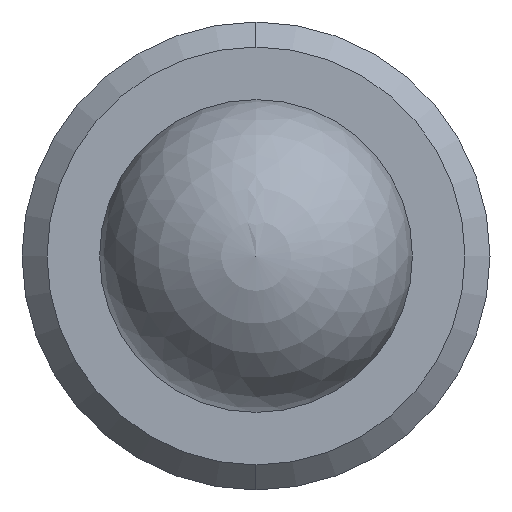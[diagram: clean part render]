
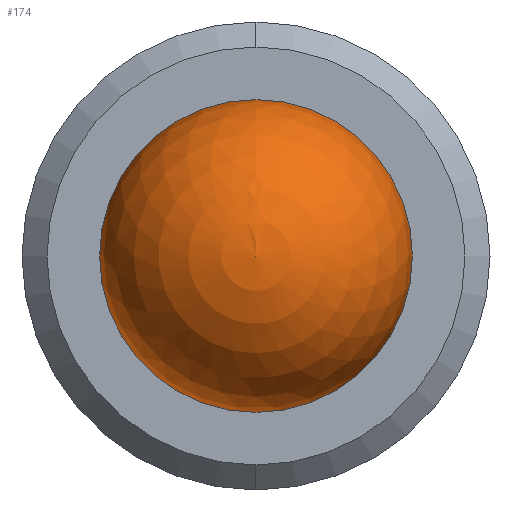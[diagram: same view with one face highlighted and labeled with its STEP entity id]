
A CAD part, left-side view. The second image highlights one B-rep face of the part: STEP entity #174.
In plain terms, the highlighted spherical face has radius 1.587 mm.
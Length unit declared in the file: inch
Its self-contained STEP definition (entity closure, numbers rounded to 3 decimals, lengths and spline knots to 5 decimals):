
#5 = CARTESIAN_POINT ( 'NONE',  ( 0., 0.0625, 0. ) ) ;
#13 = CARTESIAN_POINT ( 'NONE',  ( 0., -0.0625, 0. ) ) ;
#58 = EDGE_CURVE ( 'NONE', #348, #67, #272, .T. ) ;
#64 = ORIENTED_EDGE ( 'NONE', *, *, #65, .F. ) ;
#65 = EDGE_CURVE ( 'NONE', #348, #67, #261, .T. ) ;
#67 = VERTEX_POINT ( 'NONE', #13 ) ;
#100 = AXIS2_PLACEMENT_3D ( 'NONE', #587, #104, #218 ) ;
#104 = DIRECTION ( 'NONE',  ( -1., 0., 0. ) ) ;
#134 = DIRECTION ( 'NONE',  ( -1., 0., 0. ) ) ;
#155 = AXIS2_PLACEMENT_3D ( 'NONE', #276, #268, #589 ) ;
#164 = AXIS2_PLACEMENT_3D ( 'NONE', #447, #134, #483 ) ;
#174 = ADVANCED_FACE ( 'NONE', ( #241 ), #364, .T. ) ;
#218 = DIRECTION ( 'NONE',  ( 0., 0., 1. ) ) ;
#241 = FACE_OUTER_BOUND ( 'NONE', #331, .T. ) ;
#261 = CIRCLE ( 'NONE', #155, 0.0625 ) ;
#268 = DIRECTION ( 'NONE',  ( 1., 0., 0. ) ) ;
#272 = CIRCLE ( 'NONE', #164, 0.0625 ) ;
#276 = CARTESIAN_POINT ( 'NONE',  ( 0., 0., 0. ) ) ;
#331 = EDGE_LOOP ( 'NONE', ( #64, #482 ) ) ;
#348 = VERTEX_POINT ( 'NONE', #5 ) ;
#364 = SPHERICAL_SURFACE ( 'NONE', #100, 0.0625 ) ;
#447 = CARTESIAN_POINT ( 'NONE',  ( 0., 0., 0. ) ) ;
#482 = ORIENTED_EDGE ( 'NONE', *, *, #58, .T. ) ;
#483 = DIRECTION ( 'NONE',  ( 0., 0., 1. ) ) ;
#587 = CARTESIAN_POINT ( 'NONE',  ( 0., 0., 0. ) ) ;
#589 = DIRECTION ( 'NONE',  ( 0., 0., -1. ) ) ;
